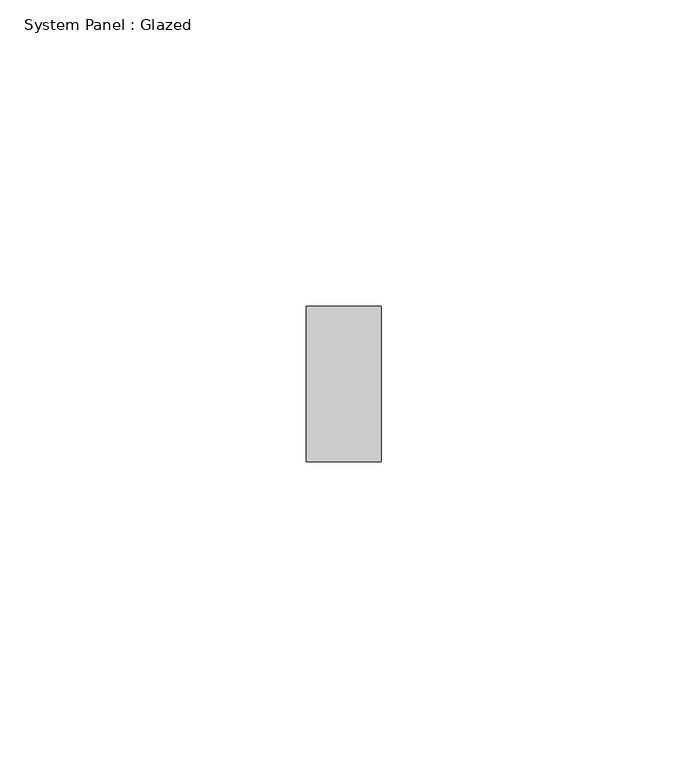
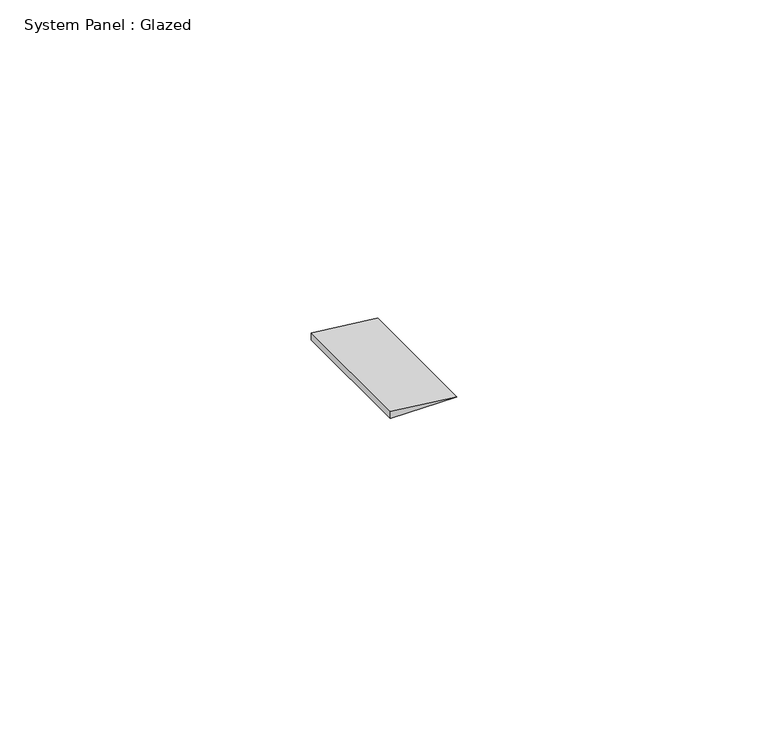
"""IFC4 building model written with IfcOpenShell, lengths in millimetres: plate geometry, System Panel : Glazed."""

from ifc_helpers import new_model, si_unit, frame, origin, place, context, project, spatial, polyline, outline, extrude, source, transform, mapped, element, save


def system_panel_glazed_8e9806c1(model_context):
    return source(origin(), model_context, "Body", "SweptSolid", [
        extrude(outline(polyline([(0.0, -6.1285299), (0.0, 6.1285299), (1.3870996, -6.1285299), (0.0, -6.1285299)])), frame((0.0, 19.05, 0.0), z_axis=(0.0, 1.0, 0.0), x_axis=(0.0, 0.0, 1.0)), (0.0, 0.0, 1.0), 25.4),
    ])


if __name__ == "__main__":
    model = new_model("IFC4")
    model_context = context("Model", 3, world=origin())
    ifc_project = project(units=[si_unit("LENGTHUNIT", "METRE", prefix="MILLI")], contexts=[model_context])
    site = spatial("IfcSite", under=ifc_project)
    building = spatial("IfcBuilding", under=site)
    placement = place(None, origin())
    system_panel_glazed_shape = system_panel_glazed_8e9806c1(model_context)
    element("IfcPlate", 1, ObjectType="System Panel : Glazed", at=placement, inside=building, context=model_context, shape_type="MappedRepresentation", body=[
        mapped(system_panel_glazed_shape, transform((0.0, 0.0, 0.0), x_axis=(1.0, 0.0, 0.0), y_axis=(0.0, 1.0, 0.0), z_axis=(0.0, 0.0, 1.0))),
    ])
    save(model, "model.ifc")
